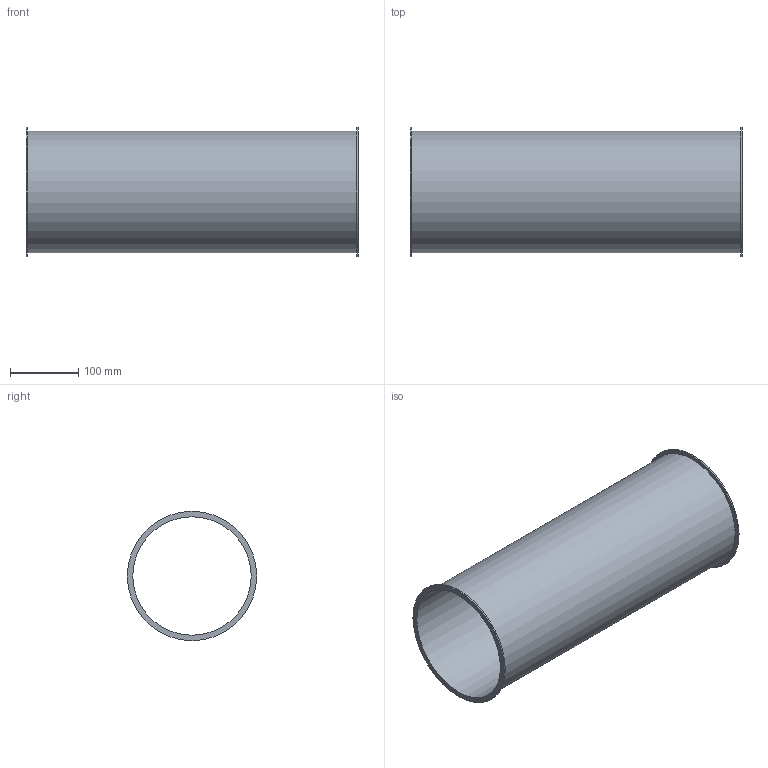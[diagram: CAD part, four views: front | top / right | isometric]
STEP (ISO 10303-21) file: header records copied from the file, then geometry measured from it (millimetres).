
FILE_DESCRIPTION((''),'2;1');
FILE_NAME('U:\Wolfgang\Marcel-3D\fertig\Kapitel 1\1721003.stp','2010-05-31T11:13:46',('TK2'),(''),'Autodesk Inventor 2010','Autodesk Inventor 2010','');
FILE_SCHEMA(('AUTOMOTIVE_DESIGN { 1 0 10303 214 1 1 1 1 }'));
Length unit declared in the file: millimetre
Products named in the file (1): 1721003
Bounding box: 488 x 190 x 190 mm (x, y, z)
Volume: 553523.5 mm3; surface area: 555886 mm2
Topology: 1 solids, 1 shells, 8 faces, 12 edges, 8 vertices
Faces by surface type: cylinder 4, plane 4
Full cylindrical faces by diameter (mm): 174 x1, 178 x1, 190 x2
Entity records: 194 total; most frequent: DIRECTION 34, CARTESIAN_POINT 25, AXIS2_PLACEMENT_3D 17, ORIENTED_EDGE 16, EDGE_LOOP 16, VERTEX_POINT 8, CIRCLE 8, EDGE_CURVE 8
